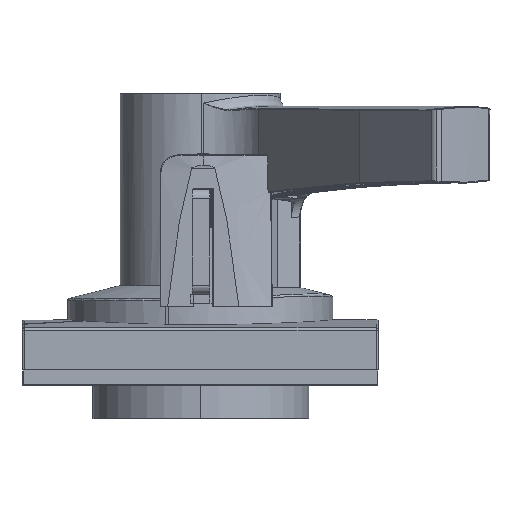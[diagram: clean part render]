
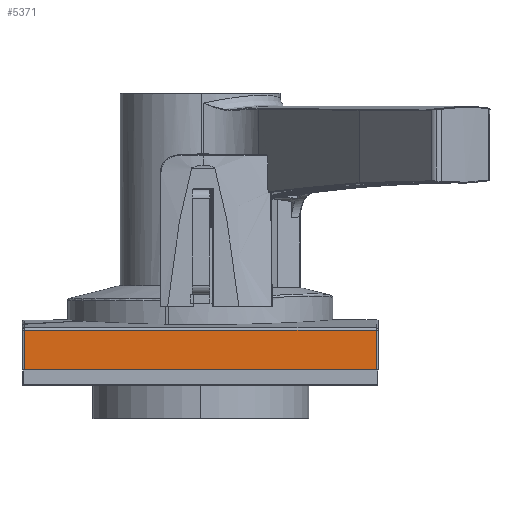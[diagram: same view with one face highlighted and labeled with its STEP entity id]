
A CAD part, front view. The second image highlights one B-rep face of the part: STEP entity #5371.
In plain terms, the highlighted planar face has unit normal (0, -1, 0) as drawn and (0, 0, -1) by its records, which use the part's own axes.
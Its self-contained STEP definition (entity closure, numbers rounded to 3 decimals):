
#417 = B_SPLINE_CURVE_WITH_KNOTS ( 'NONE', 3,
 ( #40234, #30930, #8819, #26564 ),
 .UNSPECIFIED., .F., .F.,
 ( 4, 4 ),
 ( 0., 1. ),
 .UNSPECIFIED. ) ;
#3866 = VERTEX_POINT ( 'NONE', #53198 ) ;
#5371 = ADVANCED_FACE ( 'NONE', ( #47870 ), #8036, .T. ) ;
#6277 = CARTESIAN_POINT ( 'NONE',  ( -39.607, -186.1, -40.107 ) ) ;
#7441 = EDGE_CURVE ( 'NONE', #12122, #32668, #34187, .T. ) ;
#8036 = PLANE ( 'NONE',  #8943 ) ;
#8819 = CARTESIAN_POINT ( 'NONE',  ( 39.393, -192.062, -40.107 ) ) ;
#8943 = AXIS2_PLACEMENT_3D ( 'NONE', #25779, #17053, #41186 ) ;
#12122 = VERTEX_POINT ( 'NONE', #54023 ) ;
#16823 = CARTESIAN_POINT ( 'NONE',  ( -39.607, -186.1, -40.107 ) ) ;
#17053 = DIRECTION ( 'NONE',  ( 0., 0., -1. ) ) ;
#17313 = CARTESIAN_POINT ( 'NONE',  ( -13.274, -195.044, -40.107 ) ) ;
#17541 = CARTESIAN_POINT ( 'NONE',  ( 39.393, -186.1, -40.107 ) ) ;
#21179 = CARTESIAN_POINT ( 'NONE',  ( -39.607, -195.044, -40.107 ) ) ;
#21557 = VERTEX_POINT ( 'NONE', #36443 ) ;
#23205 = B_SPLINE_CURVE_WITH_KNOTS ( 'NONE', 3,
 ( #44349, #17313, #57419, #35336 ),
 .UNSPECIFIED., .F., .F.,
 ( 4, 4 ),
 ( 0., 1. ),
 .UNSPECIFIED. ) ;
#25033 = ORIENTED_EDGE ( 'NONE', *, *, #40746, .F. ) ;
#25779 = CARTESIAN_POINT ( 'NONE',  ( -40.107, -207.801, -40.107 ) ) ;
#26564 = CARTESIAN_POINT ( 'NONE',  ( 39.393, -195.044, -40.107 ) ) ;
#29903 = CARTESIAN_POINT ( 'NONE',  ( -39.607, -192.062, -40.107 ) ) ;
#30930 = CARTESIAN_POINT ( 'NONE',  ( 39.393, -189.081, -40.107 ) ) ;
#32668 = VERTEX_POINT ( 'NONE', #17541 ) ;
#34153 = EDGE_CURVE ( 'NONE', #21557, #12122, #48928, .T. ) ;
#34187 = B_SPLINE_CURVE_WITH_KNOTS ( 'NONE', 3,
 ( #6277, #37399, #37127, #41779 ),
 .UNSPECIFIED., .F., .F.,
 ( 4, 4 ),
 ( 0., 1. ),
 .UNSPECIFIED. ) ;
#35336 = CARTESIAN_POINT ( 'NONE',  ( 39.393, -195.044, -40.107 ) ) ;
#36443 = CARTESIAN_POINT ( 'NONE',  ( -39.607, -195.044, -40.107 ) ) ;
#37127 = CARTESIAN_POINT ( 'NONE',  ( 13.059, -186.1, -40.107 ) ) ;
#37399 = CARTESIAN_POINT ( 'NONE',  ( -13.274, -186.1, -40.107 ) ) ;
#37967 = ORIENTED_EDGE ( 'NONE', *, *, #34153, .T. ) ;
#39534 = EDGE_CURVE ( 'NONE', #32668, #3866, #417, .T. ) ;
#40163 = ORIENTED_EDGE ( 'NONE', *, *, #7441, .T. ) ;
#40234 = CARTESIAN_POINT ( 'NONE',  ( 39.393, -186.1, -40.107 ) ) ;
#40746 = EDGE_CURVE ( 'NONE', #21557, #3866, #23205, .T. ) ;
#41186 = DIRECTION ( 'NONE',  ( 0., -1., 0. ) ) ;
#41317 = EDGE_LOOP ( 'NONE', ( #37967, #40163, #44539, #25033 ) ) ;
#41779 = CARTESIAN_POINT ( 'NONE',  ( 39.393, -186.1, -40.107 ) ) ;
#44349 = CARTESIAN_POINT ( 'NONE',  ( -39.607, -195.044, -40.107 ) ) ;
#44539 = ORIENTED_EDGE ( 'NONE', *, *, #39534, .T. ) ;
#47870 = FACE_OUTER_BOUND ( 'NONE', #41317, .T. ) ;
#48928 = B_SPLINE_CURVE_WITH_KNOTS ( 'NONE', 3,
 ( #21179, #29903, #53155, #16823 ),
 .UNSPECIFIED., .F., .F.,
 ( 4, 4 ),
 ( 0., 1. ),
 .UNSPECIFIED. ) ;
#53155 = CARTESIAN_POINT ( 'NONE',  ( -39.607, -189.081, -40.107 ) ) ;
#53198 = CARTESIAN_POINT ( 'NONE',  ( 39.393, -195.044, -40.107 ) ) ;
#54023 = CARTESIAN_POINT ( 'NONE',  ( -39.607, -186.1, -40.107 ) ) ;
#57419 = CARTESIAN_POINT ( 'NONE',  ( 13.059, -195.044, -40.107 ) ) ;
